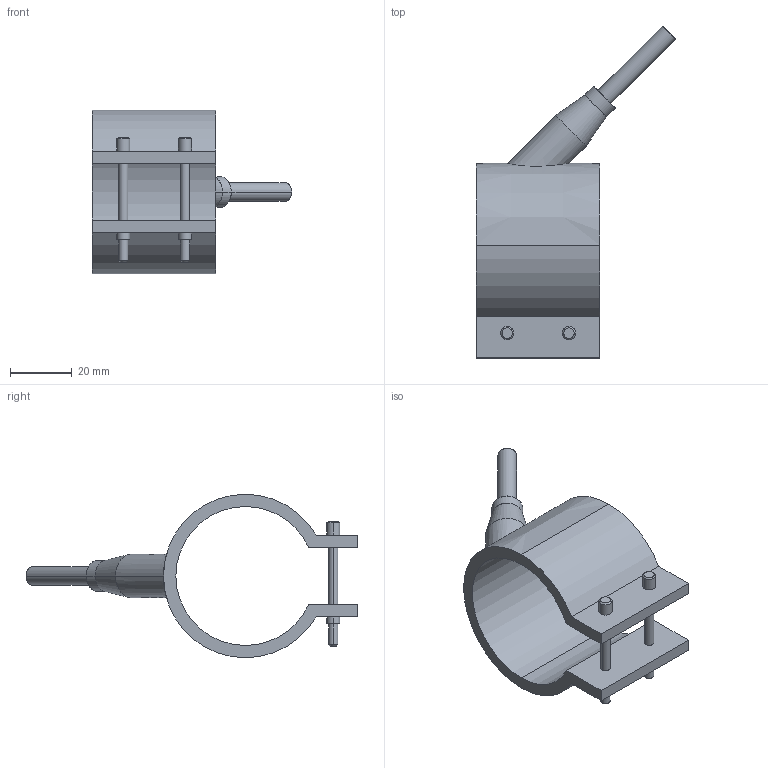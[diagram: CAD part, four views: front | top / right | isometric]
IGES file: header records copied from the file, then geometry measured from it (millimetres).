
Start section: START RECORD GO HERE.
Global section: file name: 29045040.igs; native system: DASSAULT SYSTEMES CATIA V5 R20 - www.3ds.com; preprocessor: CATIA Version 5 Release 20 ; author: Utente; organization: NB04-ASUS; date: 20210327.103446; units: millimetre
Bounding box: 64.55 x 107.55 x 53 mm (x, y, z)
Surface area: 16698.5 mm2 (no closed solid volume)
Topology: 0 solids, 0 shells, 54 faces, 244 edges, 244 vertices
Faces by surface type: revolution 38, plane 16
